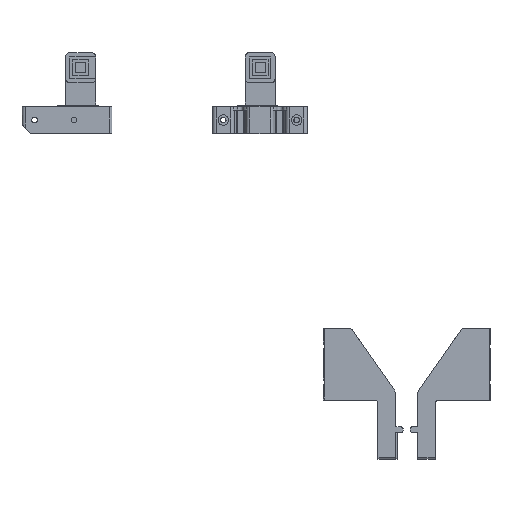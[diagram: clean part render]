
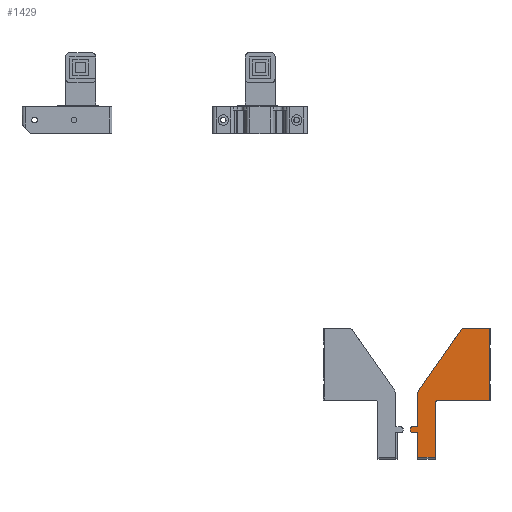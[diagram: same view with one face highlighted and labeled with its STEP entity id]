
A CAD part, top view. The second image highlights one B-rep face of the part: STEP entity #1429.
In plain terms, the highlighted planar face has unit normal (0, 0, 1).
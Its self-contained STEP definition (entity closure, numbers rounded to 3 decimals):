
#697=CARTESIAN_POINT('',(132.,-155.,20.));
#698=VERTEX_POINT('',#697);
#699=CARTESIAN_POINT('',(118.564,-155.,20.));
#700=VERTEX_POINT('',#699);
#701=CARTESIAN_POINT('',(132.,-155.,20.));
#702=DIRECTION('',(-1.,0.,0.));
#703=VECTOR('',#702,13.436);
#704=LINE('',#701,#703);
#705=EDGE_CURVE('NONE',#698,#700,#704,.T.);
#850=CARTESIAN_POINT('',(88.,-211.,20.));
#851=VERTEX_POINT('',#850);
#852=CARTESIAN_POINT('',(89.,-210.,20.));
#853=VERTEX_POINT('',#852);
#854=CARTESIAN_POINT('',(89.,-211.,20.));
#855=DIRECTION('',(-0.,-0.,-1.));
#856=DIRECTION('',(1.,0.,-0.));
#857=AXIS2_PLACEMENT_3D('',#854,#855,#856);
#858=CIRCLE('',#857,1.);
#859=EDGE_CURVE('',#851,#853,#858,.T.);
#900=CARTESIAN_POINT('',(88.,-212.,20.));
#901=VERTEX_POINT('',#900);
#908=CARTESIAN_POINT('',(88.,-212.,20.));
#909=DIRECTION('',(0.,1.,0.));
#910=VECTOR('',#909,1.);
#911=LINE('',#908,#910);
#912=EDGE_CURVE('',#901,#851,#911,.T.);
#932=CARTESIAN_POINT('',(89.,-213.,20.));
#933=VERTEX_POINT('',#932);
#940=CARTESIAN_POINT('',(89.,-212.,20.));
#941=DIRECTION('',(-0.,-0.,-1.));
#942=DIRECTION('',(1.,0.,-0.));
#943=AXIS2_PLACEMENT_3D('',#940,#941,#942);
#944=CIRCLE('',#943,1.);
#945=EDGE_CURVE('',#933,#901,#944,.T.);
#1029=CARTESIAN_POINT('',(102.,-227.,20.));
#1030=VERTEX_POINT('',#1029);
#1038=CARTESIAN_POINT('',(92.,-227.,20.));
#1039=VERTEX_POINT('',#1038);
#1040=CARTESIAN_POINT('',(102.,-227.,20.));
#1041=DIRECTION('',(-1.,0.,0.));
#1042=VECTOR('',#1041,10.);
#1043=LINE('',#1040,#1042);
#1044=EDGE_CURVE('',#1030,#1039,#1043,.T.);
#1070=CARTESIAN_POINT('',(92.,-213.,20.));
#1071=VERTEX_POINT('',#1070);
#1078=CARTESIAN_POINT('',(89.,-213.,20.));
#1079=DIRECTION('',(1.,0.,-0.));
#1080=VECTOR('',#1079,3.);
#1081=LINE('',#1078,#1080);
#1082=EDGE_CURVE('',#933,#1071,#1081,.T.);
#1119=CARTESIAN_POINT('',(92.,-210.,20.));
#1120=VERTEX_POINT('',#1119);
#1121=CARTESIAN_POINT('',(89.,-210.,20.));
#1122=DIRECTION('',(1.,0.,-0.));
#1123=VECTOR('',#1122,3.);
#1124=LINE('',#1121,#1123);
#1125=EDGE_CURVE('',#853,#1120,#1124,.T.);
#1192=CARTESIAN_POINT('',(102.,-197.,20.));
#1193=VERTEX_POINT('',#1192);
#1200=CARTESIAN_POINT('',(102.,-197.,20.));
#1201=DIRECTION('',(0.,-1.,0.));
#1202=VECTOR('',#1201,30.);
#1203=LINE('',#1200,#1202);
#1204=EDGE_CURVE('NONE',#1193,#1030,#1203,.T.);
#1318=CARTESIAN_POINT('',(92.,-227.,20.));
#1319=DIRECTION('',(0.,1.,0.));
#1320=VECTOR('',#1319,14.);
#1321=LINE('',#1318,#1320);
#1322=EDGE_CURVE('',#1039,#1071,#1321,.T.);
#1327=CARTESIAN_POINT('',(92.,-191.108,20.));
#1328=VERTEX_POINT('',#1327);
#1329=CARTESIAN_POINT('',(92.,-210.,20.));
#1330=DIRECTION('',(0.,1.,0.));
#1331=VECTOR('',#1330,18.892);
#1332=LINE('',#1329,#1331);
#1333=EDGE_CURVE('',#1120,#1328,#1332,.T.);
#1354=CARTESIAN_POINT('',(104.,-195.,20.));
#1355=VERTEX_POINT('',#1354);
#1362=CARTESIAN_POINT('',(104.,-197.,20.));
#1363=DIRECTION('',(0.,0.,1.));
#1364=DIRECTION('',(1.,0.,-0.));
#1365=AXIS2_PLACEMENT_3D('',#1362,#1363,#1364);
#1366=CIRCLE('',#1365,2.);
#1367=EDGE_CURVE('NONE',#1355,#1193,#1366,.T.);
#1373=CARTESIAN_POINT('',(92.,-175.,20.));
#1374=DIRECTION('',(0.,0.,-1.));
#1375=DIRECTION('',(-1.,0.,0.));
#1376=AXIS2_PLACEMENT_3D('',#1373,#1374,#1375);
#1377=PLANE('',#1376);
#1378=CARTESIAN_POINT('',(116.104,-156.282,20.));
#1379=VERTEX_POINT('',#1378);
#1380=CARTESIAN_POINT('',(92.18,-190.535,20.));
#1381=VERTEX_POINT('',#1380);
#1382=CARTESIAN_POINT('',(116.104,-156.282,20.));
#1383=DIRECTION('',(-0.573,-0.82,0.));
#1384=VECTOR('',#1383,41.781);
#1385=LINE('',#1382,#1384);
#1386=EDGE_CURVE('',#1379,#1381,#1385,.T.);
#1387=ORIENTED_EDGE('',*,*,#1386,.T.);
#1388=CARTESIAN_POINT('',(93.,-191.108,20.));
#1389=DIRECTION('',(-0.,-0.,-1.));
#1390=DIRECTION('',(1.,0.,-0.));
#1391=AXIS2_PLACEMENT_3D('',#1388,#1389,#1390);
#1392=CIRCLE('',#1391,1.);
#1393=EDGE_CURVE('',#1328,#1381,#1392,.T.);
#1394=ORIENTED_EDGE('',*,*,#1393,.F.);
#1395=ORIENTED_EDGE('',*,*,#1333,.F.);
#1396=ORIENTED_EDGE('',*,*,#1125,.F.);
#1397=ORIENTED_EDGE('',*,*,#859,.F.);
#1398=ORIENTED_EDGE('',*,*,#912,.F.);
#1399=ORIENTED_EDGE('',*,*,#945,.F.);
#1400=ORIENTED_EDGE('',*,*,#1082,.T.);
#1401=ORIENTED_EDGE('',*,*,#1322,.F.);
#1402=ORIENTED_EDGE('',*,*,#1044,.F.);
#1403=ORIENTED_EDGE('',*,*,#1204,.F.);
#1404=ORIENTED_EDGE('',*,*,#1367,.F.);
#1405=CARTESIAN_POINT('',(132.,-195.,20.));
#1406=VERTEX_POINT('',#1405);
#1407=CARTESIAN_POINT('',(104.,-195.,20.));
#1408=DIRECTION('',(1.,0.,0.));
#1409=VECTOR('',#1408,28.);
#1410=LINE('',#1407,#1409);
#1411=EDGE_CURVE('NONE',#1355,#1406,#1410,.T.);
#1412=ORIENTED_EDGE('',*,*,#1411,.T.);
#1413=CARTESIAN_POINT('',(132.,-195.,20.));
#1414=DIRECTION('',(0.,1.,0.));
#1415=VECTOR('',#1414,40.);
#1416=LINE('',#1413,#1415);
#1417=EDGE_CURVE('NONE',#1406,#698,#1416,.T.);
#1418=ORIENTED_EDGE('',*,*,#1417,.T.);
#1419=ORIENTED_EDGE('',*,*,#705,.T.);
#1420=CARTESIAN_POINT('',(118.564,-158.,20.));
#1421=DIRECTION('',(-0.,-0.,-1.));
#1422=DIRECTION('',(1.,0.,-0.));
#1423=AXIS2_PLACEMENT_3D('',#1420,#1421,#1422);
#1424=CIRCLE('',#1423,3.);
#1425=EDGE_CURVE('',#1379,#700,#1424,.T.);
#1426=ORIENTED_EDGE('',*,*,#1425,.F.);
#1427=EDGE_LOOP('',(#1387,#1394,#1395,#1396,#1397,#1398,#1399,#1400,#1401,#1402,#1403,#1404,#1412,#1418,#1419,#1426));
#1428=FACE_BOUND('',#1427,.T.);
#1429=ADVANCED_FACE('',(#1428),#1377,.F.);
